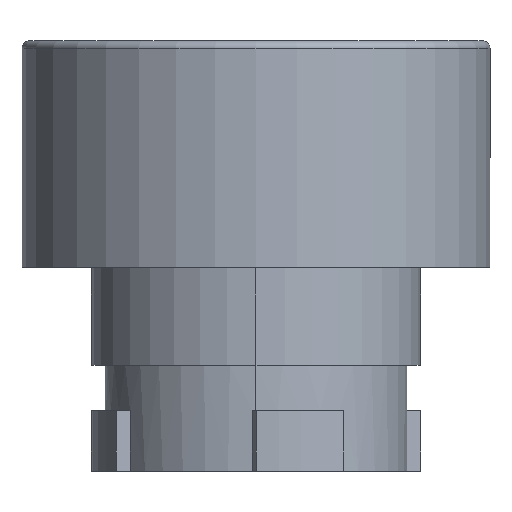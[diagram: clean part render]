
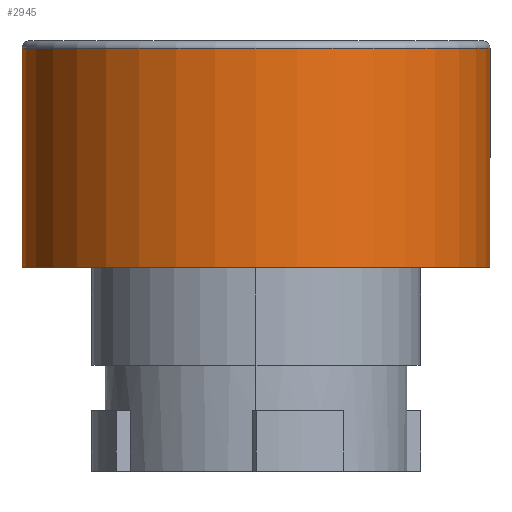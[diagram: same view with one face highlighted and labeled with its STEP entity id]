
A CAD part, left-side view. The second image highlights one B-rep face of the part: STEP entity #2945.
In plain terms, the highlighted cylindrical face has radius 15.5 mm (diameter 31 mm), a partial arc.
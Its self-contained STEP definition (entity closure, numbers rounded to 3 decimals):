
#44 = DIRECTION ( 'NONE',  ( 0., 0., -1. ) ) ;
#160 = VECTOR ( 'NONE', #1065, 1000. ) ;
#354 = ORIENTED_EDGE ( 'NONE', *, *, #2706, .F. ) ;
#357 = CARTESIAN_POINT ( 'NONE',  ( 0., -15.5, 0. ) ) ;
#453 = DIRECTION ( 'NONE',  ( 0., 1., 0. ) ) ;
#723 = ORIENTED_EDGE ( 'NONE', *, *, #3291, .F. ) ;
#763 = CARTESIAN_POINT ( 'NONE',  ( 0., -15.5, 14.5 ) ) ;
#766 = VECTOR ( 'NONE', #44, 1000. ) ;
#827 = AXIS2_PLACEMENT_3D ( 'NONE', #4130, #2039, #4481 ) ;
#830 = EDGE_LOOP ( 'NONE', ( #723, #1442, #2289, #354 ) ) ;
#1065 = DIRECTION ( 'NONE',  ( 0., 0., -1. ) ) ;
#1154 = CARTESIAN_POINT ( 'NONE',  ( 0., 0., 0. ) ) ;
#1321 = CARTESIAN_POINT ( 'NONE',  ( 0., 15.5, 0. ) ) ;
#1420 = CIRCLE ( 'NONE', #2830, 15.5 ) ;
#1434 = EDGE_CURVE ( 'NONE', #3488, #4531, #2664, .T. ) ;
#1439 = CARTESIAN_POINT ( 'NONE',  ( 0., 15.5, 0. ) ) ;
#1442 = ORIENTED_EDGE ( 'NONE', *, *, #3961, .T. ) ;
#1757 = DIRECTION ( 'NONE',  ( 0., 0., -1. ) ) ;
#1850 = CIRCLE ( 'NONE', #827, 15.5 ) ;
#2023 = CARTESIAN_POINT ( 'NONE',  ( 0., -15.5, 0. ) ) ;
#2039 = DIRECTION ( 'NONE',  ( 0., 0., -1. ) ) ;
#2289 = ORIENTED_EDGE ( 'NONE', *, *, #1434, .T. ) ;
#2609 = CARTESIAN_POINT ( 'NONE',  ( 0., 15.5, 14.5 ) ) ;
#2664 = LINE ( 'NONE', #1439, #766 ) ;
#2706 = EDGE_CURVE ( 'NONE', #4499, #4531, #1420, .T. ) ;
#2830 = AXIS2_PLACEMENT_3D ( 'NONE', #3862, #1757, #4219 ) ;
#2945 = ADVANCED_FACE ( 'NONE', ( #3508 ), #3414, .T. ) ;
#3291 = EDGE_CURVE ( 'NONE', #3344, #4499, #3787, .T. ) ;
#3344 = VERTEX_POINT ( 'NONE', #763 ) ;
#3414 = CYLINDRICAL_SURFACE ( 'NONE', #4416, 15.5 ) ;
#3488 = VERTEX_POINT ( 'NONE', #2609 ) ;
#3508 = FACE_OUTER_BOUND ( 'NONE', #830, .T. ) ;
#3787 = LINE ( 'NONE', #357, #160 ) ;
#3862 = CARTESIAN_POINT ( 'NONE',  ( 0., 0., 0. ) ) ;
#3961 = EDGE_CURVE ( 'NONE', #3344, #3488, #1850, .T. ) ;
#3970 = DIRECTION ( 'NONE',  ( 0., 0., -1. ) ) ;
#4130 = CARTESIAN_POINT ( 'NONE',  ( 0., 0., 14.5 ) ) ;
#4219 = DIRECTION ( 'NONE',  ( 0., 1., 0. ) ) ;
#4416 = AXIS2_PLACEMENT_3D ( 'NONE', #1154, #3970, #453 ) ;
#4481 = DIRECTION ( 'NONE',  ( 0., -1., 0. ) ) ;
#4499 = VERTEX_POINT ( 'NONE', #2023 ) ;
#4531 = VERTEX_POINT ( 'NONE', #1321 ) ;
